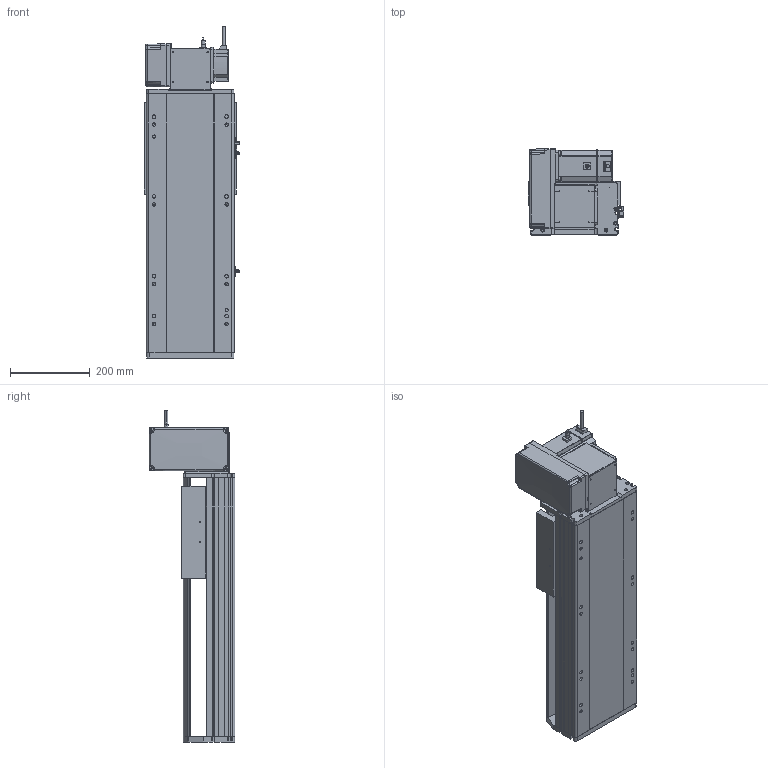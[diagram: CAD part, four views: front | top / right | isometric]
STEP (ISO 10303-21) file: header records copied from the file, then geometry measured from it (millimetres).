
FILE_DESCRIPTION (( 'STEP AP214' ), '1' );
FILE_NAME ('RTB22S-XX-300-LW-M75-C4.STEP', '2025-12-12T05:50:50', ( '' ), ( '' ), 'SwSTEP 2.0', 'SolidWorks 2018', '' );
FILE_SCHEMA (( 'AUTOMOTIVE_DESIGN' ));
Length unit declared in the file: millimetre
Products named in the file (14): RTB22S-L-004賑釱^RTB22S-XX-XX-LW-M75-C4; RTB22S-GY-008-M75--萇儂啣^RTB22S-LW-々湍釱蚾饜_RTB22S-XX-XX-LW-M75-C4; RTB22S-LW-々湍釱蚾饜^RTB22S-XX-XX-LW-M75-C4; RTB22S-GY-017P^RTB22S-LW-々湍釱蚾饜_RTB22S-XX-XX-LW-M75-C4; RTH22-GY-013外置感应片^RTB22S-XX-XX-LW-M75-C4; RTB22S-GY-014--々湍釱^RTB22S-LW-々湍釱蚾饜_RTB22S-XX-XX-LW-M75-C4; RTB22S-L-011菁釱^RTB22S-XX-XX-LW-M75-C4; RTB22S-XX-300-LW-M75-C4; RTB22S-GY-018P^RTB22S-LW-々湍釱蚾饜_RTB22S-XX-XX-LW-M75-C4; RTB22S-GY-001耜裔^RTB22S-XX-XX-LW-M75-C4; OMRON EE-SX672 传感器^RTB22S-XX-XX-LW-M75-C4; RTB22S-GY-005P^RTB22S-LW-々湍釱蚾饜_RTB22S-XX-XX-LW-M75-C4; RTB22S-GY-007奻裔^RTB22S-XX-XX-LW-M75-C4; 750W萇儂^RTB22S-XX-XX-LW-M75-C4
Assembly tree (16 placements, depth 3):
  RTB22S-XX-300-LW-M75-C4
    RTB22S-L-011菁釱^RTB22S-XX-XX-LW-M75-C4
    RTB22S-GY-001耜裔^RTB22S-XX-XX-LW-M75-C4
    750W萇儂^RTB22S-XX-XX-LW-M75-C4
    RTB22S-GY-007奻裔^RTB22S-XX-XX-LW-M75-C4
    RTB22S-L-004賑釱^RTB22S-XX-XX-LW-M75-C4
    RTH22-GY-013外置感应片^RTB22S-XX-XX-LW-M75-C4
    OMRON EE-SX672 传感器^RTB22S-XX-XX-LW-M75-C4  x3
    RTB22S-LW-々湍釱蚾饜^RTB22S-XX-XX-LW-M75-C4
      RTB22S-GY-014--々湍釱^RTB22S-LW-々湍釱蚾饜_RTB22S-XX-XX-LW-M75-C4
      RTB22S-GY-017P^RTB22S-LW-々湍釱蚾饜_RTB22S-XX-XX-LW-M75-C4  x2
      RTB22S-GY-005P^RTB22S-LW-々湍釱蚾饜_RTB22S-XX-XX-LW-M75-C4
      RTB22S-GY-008-M75--萇儂啣^RTB22S-LW-々湍釱蚾饜_RTB22S-XX-XX-LW-M75-C4
      RTB22S-GY-018P^RTB22S-LW-々湍釱蚾饜_RTB22S-XX-XX-LW-M75-C4
Bounding box: 238.5 x 215.5 x 832.2 mm (x, y, z)
Volume: 13133057.4 mm3; surface area: 1401170.8 mm2
Topology: 15 solids, 15 shells, 1911 faces, 5186 edges, 3332 vertices
Faces by surface type: plane 907, cylinder 574, bspline 296, cone 122, sphere 8, torus 4
Entity records: 50136 total; most frequent: CARTESIAN_POINT 14580, ORIENTED_EDGE 7192, DIRECTION 6850, EDGE_CURVE 3596, AXIS2_PLACEMENT_3D 2390, VERTEX_POINT 2336, LINE 2070, VECTOR 2070
